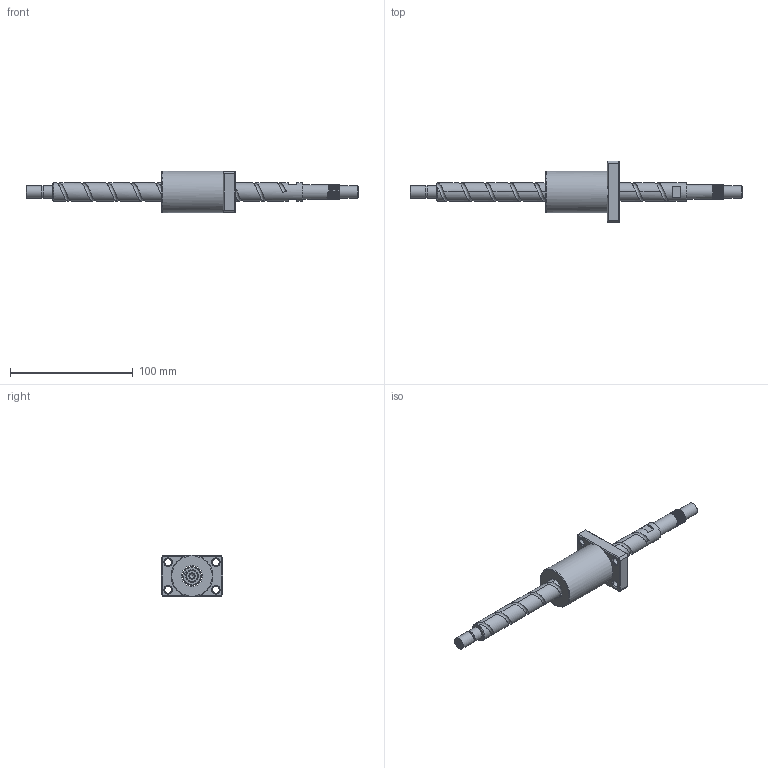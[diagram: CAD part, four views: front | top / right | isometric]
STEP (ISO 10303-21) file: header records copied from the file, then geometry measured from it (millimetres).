
FILE_DESCRIPTION (( 'STEP AP203' ), '1' );
FILE_NAME ('XSVR01520A1DGC5-271-P1.step', '2024-06-03T05:36:48', ( '' ), ( '' ), 'SwSTEP 2.0', 'SolidWorks 2022', '' );
FILE_SCHEMA (( 'CONFIG_CONTROL_DESIGN' ));
Length unit declared in the file: millimetre
Products named in the file (1): XSVR01520A1DGC5-271-P1
Bounding box: 271 x 50 x 34 mm (x, y, z)
Volume: 86735.6 mm3; surface area: 27056.3 mm2
Topology: 2 solids, 2 shells, 140 faces, 374 edges, 244 vertices
Faces by surface type: cylinder 63, plane 43, cone 15, bspline 10, torus 9
Full cylindrical faces by diameter (mm): 4 x1, 4.2 x15, 5 x6, 5.5 x4, 9.5 x4, 9.6 x1, 10 x3, 12 x9, 15 x10, 17 x1, 34 x1
Entity records: 11850 total; most frequent: CARTESIAN_POINT 9722, ORIENTED_EDGE 410, DIRECTION 391, EDGE_CURVE 205, AXIS2_PLACEMENT_3D 168, EDGE_LOOP 153, VERTEX_POINT 150, FACE_OUTER_BOUND 120
